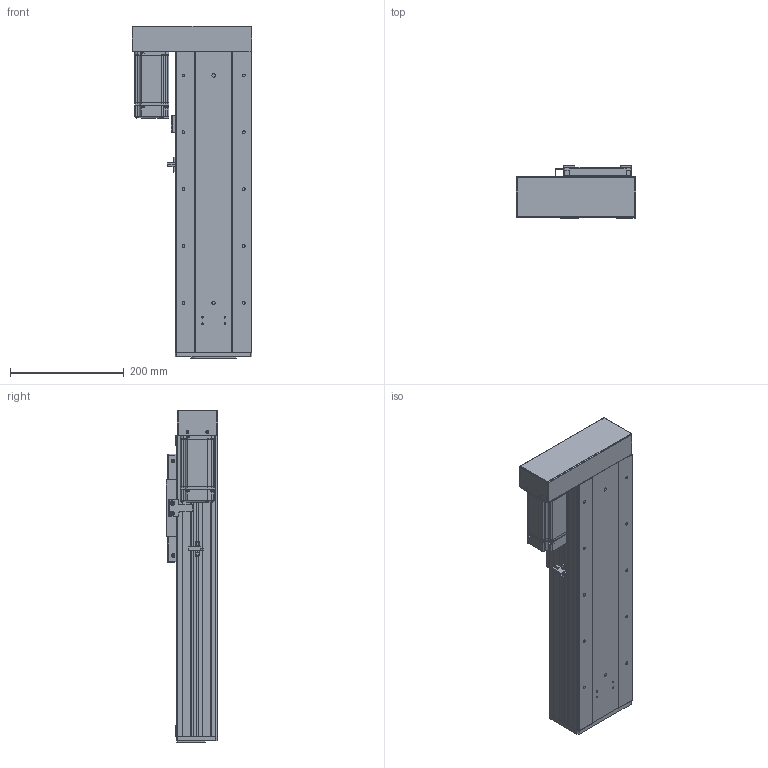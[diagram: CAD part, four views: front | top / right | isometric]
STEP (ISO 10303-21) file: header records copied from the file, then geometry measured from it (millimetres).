
FILE_DESCRIPTION (( 'STEP AP203' ), '1' );
FILE_NAME ('RY140F-L2020-300-LK.SLDASM_250.step', '2021-03-02T08:36:46', ( '盈信电脑' ), ( '东莞市道滘镇水果街19号' ), 'SwSTEP 2.0', 'SolidWorks 2012', '' );
FILE_SCHEMA (( 'CONFIG_CONTROL_DESIGN' ));
Length unit declared in the file: millimetre
Products named in the file (19): RY140F-酘衵殏萇儂欶(400W); RY140F-转折折电机座（7001）; RY140F-左右折电机安装板(400W M5); RY140F-L2020-300-LK.SLDASM_250; RY140F-詩湍揤え; RY140F-672覜茼んえ; 覜茼ん672; 侐源滅袉蝶; 15; 侂狟400W侜督萇儂; RY140F-直连型材铝滑块(16丝杆); RY140F-后盖板(铝件）; RY140F-滅鳥奻裔; RY100F-詩湍揤踡謫; RY140F-詩湍幗謫粣; RY140F-300-LK蛌殏詩湍_250; RY140F-300-LK倰第奻裔啣_250; RY140F-直连型材铝滑块连接座; RY140F-300-LK倰第菁釱_250
Assembly tree (23 placements, depth 3):
  RY140F-L2020-300-LK.SLDASM_250
    RY140F-300-LK倰第菁釱_250
    RY140F-300-LK倰第奻裔啣_250  x2
    RY140F-300-LK蛌殏詩湍_250
    RY140F-直连型材铝滑块连接座
    RY140F-滅鳥奻裔
    RY140F-詩湍幗謫粣
    RY100F-詩湍揤踡謫
    RY140F-直连型材铝滑块(16丝杆)
    RY140F-后盖板(铝件）
    侂狟400W侜督萇儂
      15
    覜茼ん672
    RY140F-672覜茼んえ
    RY140F-詩湍揤え  x2
    侐源滅袉蝶  x4
    RY140F-转折折电机座（7001）
    RY140F-左右折电机安装板(400W M5)
    RY140F-酘衵殏萇儂欶(400W)
Bounding box: 211 x 91 x 584 mm (x, y, z)
Volume: 2763688.2 mm3; surface area: 973034.9 mm2
Topology: 22 solids, 22 shells, 1969 faces, 5377 edges, 3426 vertices
Faces by surface type: cylinder 948, plane 789, cone 202, bspline 26, torus 4
Entity records: 62343 total; most frequent: CARTESIAN_POINT 13275, DIRECTION 9930, ORIENTED_EDGE 9690, EDGE_CURVE 4845, AXIS2_PLACEMENT_3D 3545, VERTEX_POINT 3166, LINE 2840, VECTOR 2840
